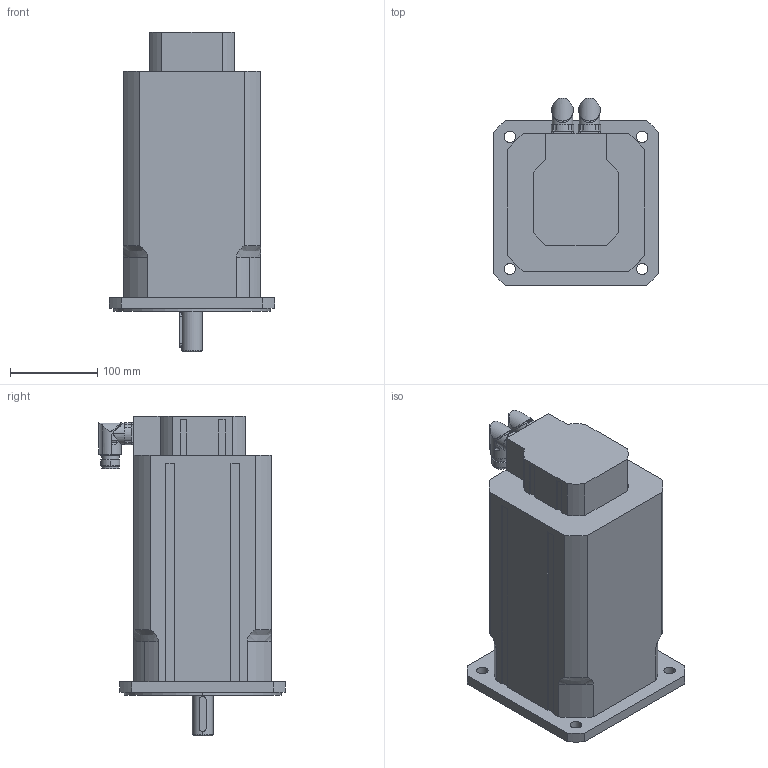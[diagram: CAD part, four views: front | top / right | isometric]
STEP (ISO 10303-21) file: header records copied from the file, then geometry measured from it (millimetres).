
FILE_DESCRIPTION(('STEP AP203'),'2;1');
FILE_NAME('MT6-2900.stp','2006-08-28T20:26:39',(''),(''),'2005.2.102','THINKDESIGN','');
FILE_SCHEMA(('CONFIG_CONTROL_DESIGN'));
Length unit declared in the file: millimetre
Bounding box: 190 x 214.5 x 367 mm (x, y, z)
Volume: 7294543.6 mm3; surface area: 284441.7 mm2
Topology: 3 solids, 3 shells, 258 faces, 685 edges, 443 vertices
Faces by surface type: cylinder 112, plane 108, bspline 38
Full cylindrical faces by diameter (mm): 20 x2
Entity records: 9380 total; most frequent: CARTESIAN_POINT 2860, ORIENTED_EDGE 1366, DIRECTION 1343, EDGE_CURVE 683, AXIS2_PLACEMENT_3D 500, VERTEX_POINT 443, VECTOR 343, LINE 343
